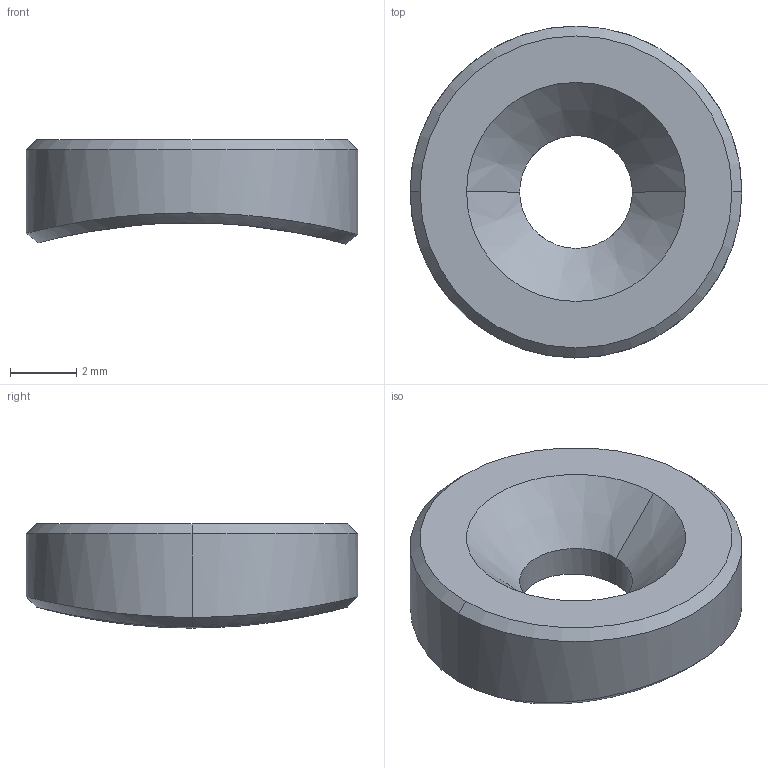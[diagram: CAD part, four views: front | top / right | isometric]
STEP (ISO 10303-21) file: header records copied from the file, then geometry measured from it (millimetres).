
FILE_DESCRIPTION((''),'2;1');
FILE_NAME('JXB-NE30-PIPE-KUAI','2019-12-03T',('Win10'),(''),'PRO/ENGINEER BY PARAMETRIC TECHNOLOGY CORPORATION, 2010280','PRO/ENGINEER BY PARAMETRIC TECHNOLOGY CORPORATION, 2010280','');
FILE_SCHEMA(('AUTOMOTIVE_DESIGN_CC2 { 1 2 10303 214 -1 1 5 2 }'));
Length unit declared in the file: millimetre
Products named in the file (1): JXB-NE30-PIPE-KUAI
Bounding box: 10 x 10 x 3.14 mm (x, y, z)
Volume: 166.5 mm3; surface area: 236.8 mm2
Topology: 1 solids, 1 shells, 12 faces, 24 edges, 14 vertices
Faces by surface type: cylinder 5, cone 4, bspline 2, plane 1
Entity records: 754 total; most frequent: CARTESIAN_POINT 408, ORIENTED_EDGE 48, DIRECTION 46, PRESENTATION_STYLE_ASSIGNMENT 25, STYLED_ITEM 25, CURVE_STYLE 24, EDGE_CURVE 24, AXIS2_PLACEMENT_3D 18
